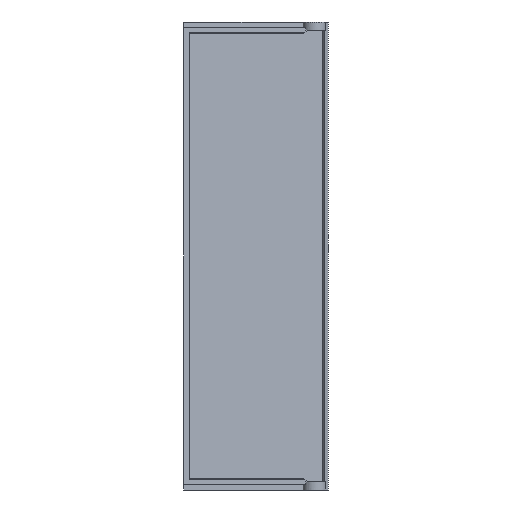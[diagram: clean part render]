
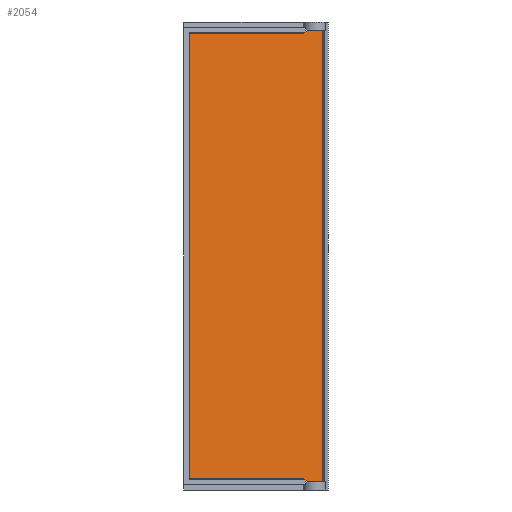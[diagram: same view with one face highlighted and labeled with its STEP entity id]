
A CAD part, front view. The second image highlights one B-rep face of the part: STEP entity #2054.
In plain terms, the highlighted planar face has unit normal (0.244, -0.97, 0).
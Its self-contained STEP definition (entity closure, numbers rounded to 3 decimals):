
#612=DIRECTION('',(-0.97,-0.244,0.));
#613=VECTOR('',#612,21.389);
#614=CARTESIAN_POINT('',(-62.,53.386,40.5));
#615=LINE('',#614,#613);
#616=DIRECTION('',(0.97,0.244,0.));
#617=VECTOR('',#616,3.093);
#618=CARTESIAN_POINT('',(-61.5,53.512,41.));
#619=LINE('',#618,#617);
#620=DIRECTION('',(0.,0.,1.));
#621=VECTOR('',#620,82.);
#622=CARTESIAN_POINT('',(-58.5,54.265,-41.));
#623=LINE('',#622,#621);
#624=DIRECTION('',(0.97,0.244,0.));
#625=VECTOR('',#624,3.093);
#626=CARTESIAN_POINT('',(-61.5,53.512,-41.));
#627=LINE('',#626,#625);
#628=DIRECTION('',(-0.97,-0.244,0.));
#629=VECTOR('',#628,21.389);
#630=CARTESIAN_POINT('',(-62.,53.386,-40.5));
#631=LINE('',#630,#629);
#632=DIRECTION('',(0.,0.,1.));
#633=VECTOR('',#632,81.);
#634=CARTESIAN_POINT('',(-82.745,48.175,-40.5));
#635=LINE('',#634,#633);
#683=DIRECTION('',(-0.696,-0.175,-0.696));
#684=VECTOR('',#683,0.718);
#685=CARTESIAN_POINT('',(-61.5,53.512,41.));
#686=LINE('',#685,#684);
#715=DIRECTION('',(0.696,0.175,-0.696));
#716=VECTOR('',#715,0.718);
#717=CARTESIAN_POINT('',(-62.,53.386,-40.5));
#718=LINE('',#717,#716);
#1389=CARTESIAN_POINT('',(-58.5,54.265,-41.));
#1390=CARTESIAN_POINT('',(-58.5,54.265,41.));
#1391=VERTEX_POINT('',#1389);
#1392=VERTEX_POINT('',#1390);
#1401=CARTESIAN_POINT('',(-82.745,48.175,-40.5));
#1402=CARTESIAN_POINT('',(-82.745,48.175,40.5));
#1403=VERTEX_POINT('',#1401);
#1404=VERTEX_POINT('',#1402);
#1406=CARTESIAN_POINT('',(-62.,53.386,-40.5));
#1408=VERTEX_POINT('',#1406);
#1410=CARTESIAN_POINT('',(-62.,53.386,40.5));
#1412=VERTEX_POINT('',#1410);
#1422=CARTESIAN_POINT('',(-61.5,53.512,-41.));
#1424=VERTEX_POINT('',#1422);
#1427=CARTESIAN_POINT('',(-61.5,53.512,41.));
#1428=VERTEX_POINT('',#1427);
#2031=CARTESIAN_POINT('',(-83.745,47.924,-118.75));
#2032=DIRECTION('',(0.244,-0.97,0.));
#2033=DIRECTION('',(0.97,0.244,0.));
#2034=AXIS2_PLACEMENT_3D('',#2031,#2032,#2033);
#2035=PLANE('',#2034);
#2037=ORIENTED_EDGE('',*,*,#2036,.F.);
#2039=ORIENTED_EDGE('',*,*,#2038,.F.);
#2041=ORIENTED_EDGE('',*,*,#2040,.T.);
#2043=ORIENTED_EDGE('',*,*,#2042,.F.);
#2045=ORIENTED_EDGE('',*,*,#2044,.F.);
#2047=ORIENTED_EDGE('',*,*,#2046,.F.);
#2049=ORIENTED_EDGE('',*,*,#2048,.T.);
#2051=ORIENTED_EDGE('',*,*,#2050,.T.);
#2052=EDGE_LOOP('',(#2037,#2039,#2041,#2043,#2045,#2047,#2049,#2051));
#2053=FACE_OUTER_BOUND('',#2052,.F.);
#2054=ADVANCED_FACE('',(#2053),#2035,.T.);
#2036=EDGE_CURVE('',#1412,#1404,#615,.T.);
#2038=EDGE_CURVE('',#1428,#1412,#686,.T.);
#2040=EDGE_CURVE('',#1428,#1392,#619,.T.);
#2042=EDGE_CURVE('',#1391,#1392,#623,.T.);
#2044=EDGE_CURVE('',#1424,#1391,#627,.T.);
#2046=EDGE_CURVE('',#1408,#1424,#718,.T.);
#2048=EDGE_CURVE('',#1408,#1403,#631,.T.);
#2050=EDGE_CURVE('',#1403,#1404,#635,.T.);
